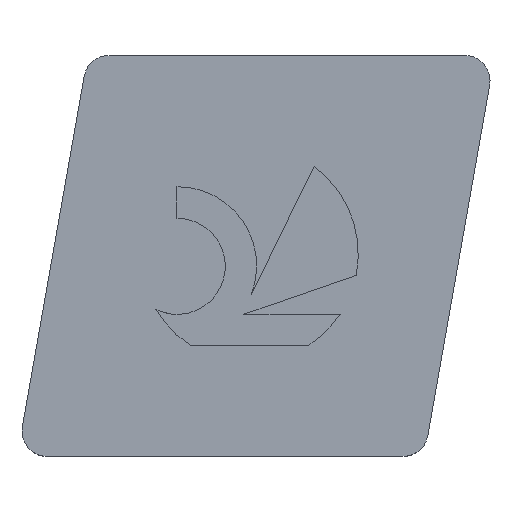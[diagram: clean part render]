
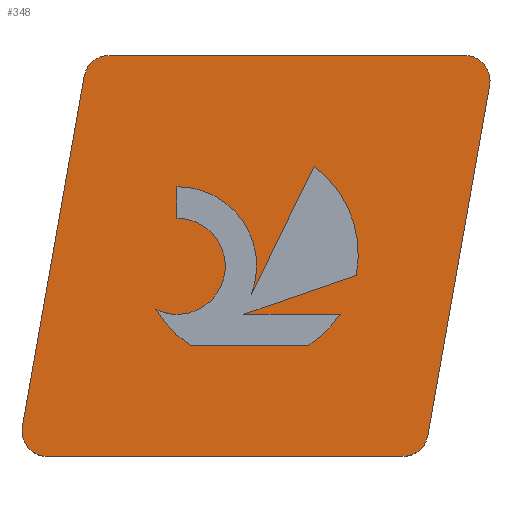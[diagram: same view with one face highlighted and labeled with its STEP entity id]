
A CAD part, top view. The second image highlights one B-rep face of the part: STEP entity #348.
In plain terms, the highlighted planar face has unit normal (0, 0, 1).
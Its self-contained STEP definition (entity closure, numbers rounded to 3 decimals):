
#146=EDGE_CURVE('',#206,#274,#398,.T.);
#154=VERTEX_POINT('',#406);
#162=VERTEX_POINT('',#414);
#164=EDGE_CURVE('',#208,#368,#416,.T.);
#176=VERTEX_POINT('',#430);
#184=EDGE_CURVE('',#298,#186,#440,.T.);
#186=VERTEX_POINT('',#442);
#194=VERTEX_POINT('',#451);
#206=VERTEX_POINT('',#464);
#208=VERTEX_POINT('',#466);
#216=VERTEX_POINT('',#475);
#220=VERTEX_POINT('',#479);
#222=EDGE_CURVE('',#220,#282,#481,.T.);
#236=EDGE_CURVE('',#162,#334,#497,.T.);
#240=EDGE_CURVE('',#274,#194,#501,.T.);
#242=VERTEX_POINT('',#503);
#258=VERTEX_POINT('',#520);
#264=EDGE_CURVE('',#282,#298,#526,.T.);
#274=VERTEX_POINT('',#536);
#278=EDGE_CURVE('',#154,#162,#541,.T.);
#280=EDGE_CURVE('',#176,#216,#543,.T.);
#282=VERTEX_POINT('',#545);
#286=EDGE_CURVE('',#364,#208,#550,.T.);
#294=EDGE_CURVE('',#296,#364,#559,.T.);
#296=VERTEX_POINT('',#561);
#298=VERTEX_POINT('',#563);
#300=EDGE_CURVE('',#334,#220,#565,.T.);
#302=EDGE_CURVE('',#370,#154,#567,.T.);
#320=EDGE_CURVE('',#242,#176,#588,.T.);
#334=VERTEX_POINT('',#603);
#342=EDGE_CURVE('',#194,#296,#611,.T.);
#346=EDGE_CURVE('',#368,#242,#615,.T.);
#348=ADVANCED_FACE('',(#617,#618),#619,.T.);
#352=EDGE_CURVE('',#186,#370,#624,.T.);
#360=EDGE_CURVE('',#258,#206,#633,.T.);
#362=EDGE_CURVE('',#216,#258,#635,.T.);
#364=VERTEX_POINT('',#637);
#368=VERTEX_POINT('',#641);
#370=VERTEX_POINT('',#643);
#398=CIRCLE('',#665,1.141);
#406=CARTESIAN_POINT('',(1.592,9.029,0.0));
#414=CARTESIAN_POINT('',(0.124,0.704,0.0));
#416=LINE('',#689,#690);
#430=CARTESIAN_POINT('',(6.93,2.64,0.0));
#440=CIRCLE('',#721,0.6);
#442=CARTESIAN_POINT('',(10.636,9.525,0.0));
#451=CARTESIAN_POINT('',(3.798,6.406,0.0));
#464=CARTESIAN_POINT('',(4.316,5.535,0.0));
#466=CARTESIAN_POINT('',(8.057,4.302,0.0));
#475=CARTESIAN_POINT('',(4.112,2.64,0.0));
#479=CARTESIAN_POINT('',(9.168,0.0,0.0));
#481=CIRCLE('',#774,0.6);
#497=CIRCLE('',#793,0.6);
#501=LINE('',#800,#801);
#503=CARTESIAN_POINT('',(7.674,3.376,0.0));
#520=CARTESIAN_POINT('',(3.294,3.493,0.0));
#526=LINE('',#839,#840);
#536=CARTESIAN_POINT('',(3.798,5.655,0.0));
#541=LINE('',#858,#859);
#543=LINE('',#862,#863);
#545=CARTESIAN_POINT('',(9.759,0.496,0.0));
#550=CIRCLE('',#871,2.586);
#559=LINE('',#881,#882);
#561=CARTESIAN_POINT('',(5.565,3.853,0.0));
#563=CARTESIAN_POINT('',(11.227,8.821,0.0));
#565=LINE('',#889,#890);
#567=CIRCLE('',#893,0.6);
#588=CIRCLE('',#924,2.586);
#603=CARTESIAN_POINT('',(0.715,0.0,0.0));
#611=CIRCLE('',#958,1.878);
#615=LINE('',#965,#966);
#617=FACE_BOUND('',#968,.T.);
#618=FACE_OUTER_BOUND('',#969,.T.);
#619=PLANE('',#970);
#624=LINE('',#976,#977);
#633=CIRCLE('',#989,1.141);
#635=CIRCLE('',#992,2.586);
#637=CARTESIAN_POINT('',(7.06,6.885,0.0));
#641=CARTESIAN_POINT('',(5.39,3.376,0.0));
#643=CARTESIAN_POINT('',(2.183,9.525,0.0));
#665=AXIS2_PLACEMENT_3D('',#1014,#1015,#1016);
#689=CARTESIAN_POINT('',(5.732,3.495,0.0));
#690=VECTOR('',#1021,1.0);
#721=AXIS2_PLACEMENT_3D('',#1057,#1058,#1059);
#774=AXIS2_PLACEMENT_3D('',#1101,#1102,#1103);
#793=AXIS2_PLACEMENT_3D('',#1121,#1122,#1123);
#800=CARTESIAN_POINT('',(3.798,5.584,0.0));
#801=VECTOR('',#1125,1.0);
#839=CARTESIAN_POINT('',(9.759,0.496,0.0));
#840=VECTOR('',#1145,1.0);
#858=CARTESIAN_POINT('',(1.592,9.029,0.0));
#859=VECTOR('',#1155,1.0);
#862=CARTESIAN_POINT('',(4.894,2.64,0.0));
#863=VECTOR('',#1156,1.0);
#871=AXIS2_PLACEMENT_3D('',#1165,#1166,#1167);
#881=CARTESIAN_POINT('',(6.504,5.757,0.0));
#882=VECTOR('',#1176,1.0);
#889=CARTESIAN_POINT('',(0.715,0.0,0.0));
#890=VECTOR('',#1177,1.0);
#893=AXIS2_PLACEMENT_3D('',#1178,#1179,#1180);
#924=AXIS2_PLACEMENT_3D('',#1219,#1220,#1221);
#958=AXIS2_PLACEMENT_3D('',#1235,#1236,#1237);
#965=CARTESIAN_POINT('',(6.675,3.376,0.0));
#966=VECTOR('',#1239,1.0);
#968=EDGE_LOOP('',(#1241,#1242,#1243,#1244,#1245,#1246,#1247,#1248,#1249,#1250,#1251));
#969=EDGE_LOOP('',(#1252,#1253,#1254,#1255,#1256,#1257,#1258,#1259));
#970=AXIS2_PLACEMENT_3D('',#1260,#1261,#1262);
#976=CARTESIAN_POINT('',(10.636,9.525,0.0));
#977=VECTOR('',#1271,1.0);
#989=AXIS2_PLACEMENT_3D('',#1286,#1287,#1288);
#992=AXIS2_PLACEMENT_3D('',#1289,#1290,#1291);
#1014=CARTESIAN_POINT('',(3.805,4.514,0.0));
#1015=DIRECTION('',(0.0,0.0,1.0));
#1016=DIRECTION('',(-0.447,-0.894,0.0));
#1021=DIRECTION('',(-0.945,-0.328,0.0));
#1057=CARTESIAN_POINT('',(10.636,8.925,0.0));
#1058=DIRECTION('',(-0.0,0.0,1.0));
#1059=DIRECTION('',(0.985,-0.174,0.0));
#1101=CARTESIAN_POINT('',(9.168,0.6,0.0));
#1102=DIRECTION('',(0.0,0.0,1.0));
#1103=DIRECTION('',(0.,-1.0,0.0));
#1121=CARTESIAN_POINT('',(0.715,0.6,0.0));
#1122=DIRECTION('',(0.0,0.0,1.0));
#1123=DIRECTION('',(-0.985,0.174,0.0));
#1125=DIRECTION('',(0.0,1.0,0.0));
#1145=DIRECTION('',(0.174,0.985,0.0));
#1155=DIRECTION('',(-0.174,-0.985,0.0));
#1156=DIRECTION('',(-1.0,0.0,0.0));
#1165=CARTESIAN_POINT('',(5.521,4.808,0.0));
#1166=DIRECTION('',(0.0,-0.0,-1.0));
#1167=DIRECTION('',(0.981,-0.196,0.0));
#1176=DIRECTION('',(0.442,0.897,-0.0));
#1177=DIRECTION('',(1.0,0.0,0.0));
#1178=CARTESIAN_POINT('',(2.183,8.925,0.0));
#1179=DIRECTION('',(0.0,0.0,1.0));
#1180=DIRECTION('',(0.,1.0,0.0));
#1219=CARTESIAN_POINT('',(5.521,4.808,0.0));
#1220=DIRECTION('',(0.0,-0.0,-1.0));
#1221=DIRECTION('',(0.545,-0.838,0.0));
#1235=CARTESIAN_POINT('',(3.812,4.528,0.0));
#1236=DIRECTION('',(0.0,-0.0,-1.0));
#1237=DIRECTION('',(0.933,-0.359,0.0));
#1239=DIRECTION('',(1.0,0.0,0.0));
#1241=ORIENTED_EDGE('',*,*,#240,.T.);
#1242=ORIENTED_EDGE('',*,*,#342,.T.);
#1243=ORIENTED_EDGE('',*,*,#294,.T.);
#1244=ORIENTED_EDGE('',*,*,#286,.T.);
#1245=ORIENTED_EDGE('',*,*,#164,.T.);
#1246=ORIENTED_EDGE('',*,*,#346,.T.);
#1247=ORIENTED_EDGE('',*,*,#320,.T.);
#1248=ORIENTED_EDGE('',*,*,#280,.T.);
#1249=ORIENTED_EDGE('',*,*,#362,.T.);
#1250=ORIENTED_EDGE('',*,*,#360,.T.);
#1251=ORIENTED_EDGE('',*,*,#146,.T.);
#1252=ORIENTED_EDGE('',*,*,#300,.T.);
#1253=ORIENTED_EDGE('',*,*,#222,.T.);
#1254=ORIENTED_EDGE('',*,*,#264,.T.);
#1255=ORIENTED_EDGE('',*,*,#184,.T.);
#1256=ORIENTED_EDGE('',*,*,#352,.T.);
#1257=ORIENTED_EDGE('',*,*,#302,.T.);
#1258=ORIENTED_EDGE('',*,*,#278,.T.);
#1259=ORIENTED_EDGE('',*,*,#236,.T.);
#1260=CARTESIAN_POINT('',(5.676,4.763,0.0));
#1261=DIRECTION('',(0.0,0.0,1.0));
#1262=DIRECTION('',(1.0,0.0,0.0));
#1271=DIRECTION('',(-1.0,0.0,0.0));
#1286=CARTESIAN_POINT('',(3.805,4.514,0.0));
#1287=DIRECTION('',(0.0,0.0,1.0));
#1288=DIRECTION('',(-0.447,-0.894,0.0));
#1289=CARTESIAN_POINT('',(5.521,4.808,0.0));
#1290=DIRECTION('',(-0.0,0.0,-1.0));
#1291=DIRECTION('',(-0.861,-0.508,0.0));
